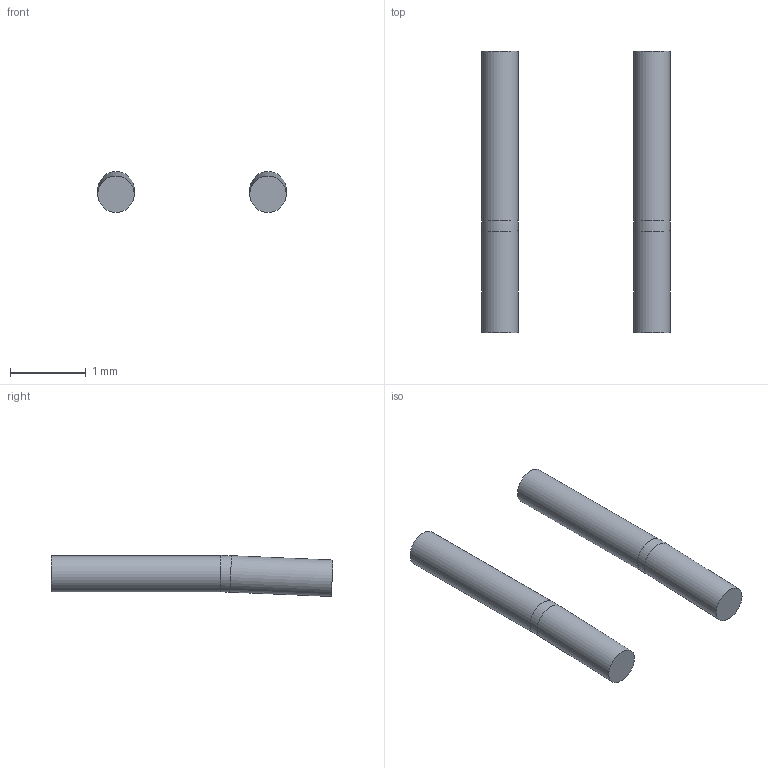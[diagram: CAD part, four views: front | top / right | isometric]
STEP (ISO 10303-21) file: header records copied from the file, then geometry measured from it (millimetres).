
FILE_DESCRIPTION(('Open CASCADE Model'),'2;1');
FILE_NAME('Open CASCADE Shape Model','2026-09-15T15:02:27',('Author'),( 'Open CASCADE'),'Open CASCADE STEP processor 7.7','Open CASCADE 7.7' ,'Unknown');
FILE_SCHEMA(('AUTOMOTIVE_DESIGN { 1 0 10303 214 1 1 1 1 }'));
Length unit declared in the file: millimetre
Products named in the file (1): R36_ADAPTER_TWO_BARE_LAP_CONDUCTORS_REFERENCE_FINAL
Bounding box: 2.48 x 3.71 x 0.54 mm (x, y, z)
Volume: 1.3 mm3; surface area: 11.9 mm2
Topology: 2 solids, 2 shells, 10 faces, 14 edges, 8 vertices
Faces by surface type: cylinder 4, plane 4, torus 2
Full cylindrical faces by diameter (mm): 0.48 x4
Entity records: 396 total; most frequent: CARTESIAN_POINT 71, DIRECTION 64, ORIENTED_EDGE 28, PCURVE 28, DEFINITIONAL_REPRESENTATION 28, AXIS2_PLACEMENT_3D 21, LINE 18, VECTOR 18
